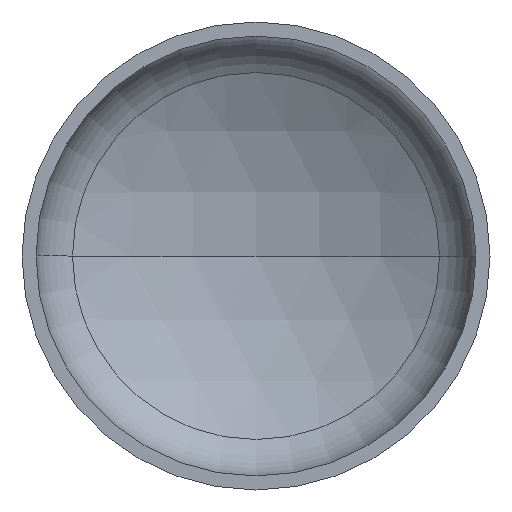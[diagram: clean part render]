
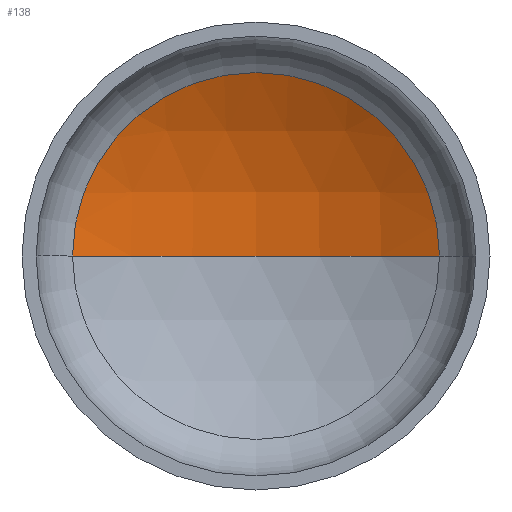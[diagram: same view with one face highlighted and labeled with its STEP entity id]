
A CAD part, front view. The second image highlights one B-rep face of the part: STEP entity #138.
In plain terms, the highlighted spherical face has radius 1440 mm.
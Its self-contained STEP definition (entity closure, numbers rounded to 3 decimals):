
#4 = ORIENTED_EDGE ( 'NONE', *, *, #345, .T. ) ;
#9 = EDGE_LOOP ( 'NONE', ( #402, #4, #116 ) ) ;
#23 = VERTEX_POINT ( 'NONE', #367 ) ;
#28 = AXIS2_PLACEMENT_3D ( 'NONE', #199, #368, #148 ) ;
#31 = AXIS2_PLACEMENT_3D ( 'NONE', #114, #290, #294 ) ;
#60 = VERTEX_POINT ( 'NONE', #259 ) ;
#79 = AXIS2_PLACEMENT_3D ( 'NONE', #205, #223, #211 ) ;
#98 = AXIS2_PLACEMENT_3D ( 'NONE', #297, #154, #323 ) ;
#100 = VERTEX_POINT ( 'NONE', #251 ) ;
#114 = CARTESIAN_POINT ( 'NONE',  ( 0., 359.704, 0. ) ) ;
#116 = ORIENTED_EDGE ( 'NONE', *, *, #342, .T. ) ;
#138 = ADVANCED_FACE ( 'NONE', ( #222 ), #400, .F. ) ;
#148 = DIRECTION ( 'NONE',  ( -1., 0., 0. ) ) ;
#154 = DIRECTION ( 'NONE',  ( 0., 0., 1. ) ) ;
#190 = CIRCLE ( 'NONE', #28, 1440. ) ;
#199 = CARTESIAN_POINT ( 'NONE',  ( 0., -895.472, 0. ) ) ;
#205 = CARTESIAN_POINT ( 'NONE',  ( 0., -895.472, 0. ) ) ;
#211 = DIRECTION ( 'NONE',  ( -1., 0., 0. ) ) ;
#222 = FACE_OUTER_BOUND ( 'NONE', #9, .T. ) ;
#223 = DIRECTION ( 'NONE',  ( 0., 0., -1. ) ) ;
#251 = CARTESIAN_POINT ( 'NONE',  ( 0., 544.528, 0. ) ) ;
#259 = CARTESIAN_POINT ( 'NONE',  ( -705.785, 359.704, 0. ) ) ;
#290 = DIRECTION ( 'NONE',  ( 0., -1., 0. ) ) ;
#294 = DIRECTION ( 'NONE',  ( 1., 0., 0. ) ) ;
#297 = CARTESIAN_POINT ( 'NONE',  ( 0., -895.472, 0. ) ) ;
#323 = DIRECTION ( 'NONE',  ( 1., 0., 0. ) ) ;
#342 = EDGE_CURVE ( 'NONE', #23, #60, #380, .T. ) ;
#345 = EDGE_CURVE ( 'NONE', #100, #23, #190, .T. ) ;
#367 = CARTESIAN_POINT ( 'NONE',  ( 705.785, 359.704, 0. ) ) ;
#368 = DIRECTION ( 'NONE',  ( 0., 0., -1. ) ) ;
#380 = CIRCLE ( 'NONE', #31, 705.785 ) ;
#382 = EDGE_CURVE ( 'NONE', #100, #60, #410, .T. ) ;
#400 = SPHERICAL_SURFACE ( 'NONE', #79, 1440. ) ;
#402 = ORIENTED_EDGE ( 'NONE', *, *, #382, .F. ) ;
#410 = CIRCLE ( 'NONE', #98, 1440. ) ;
